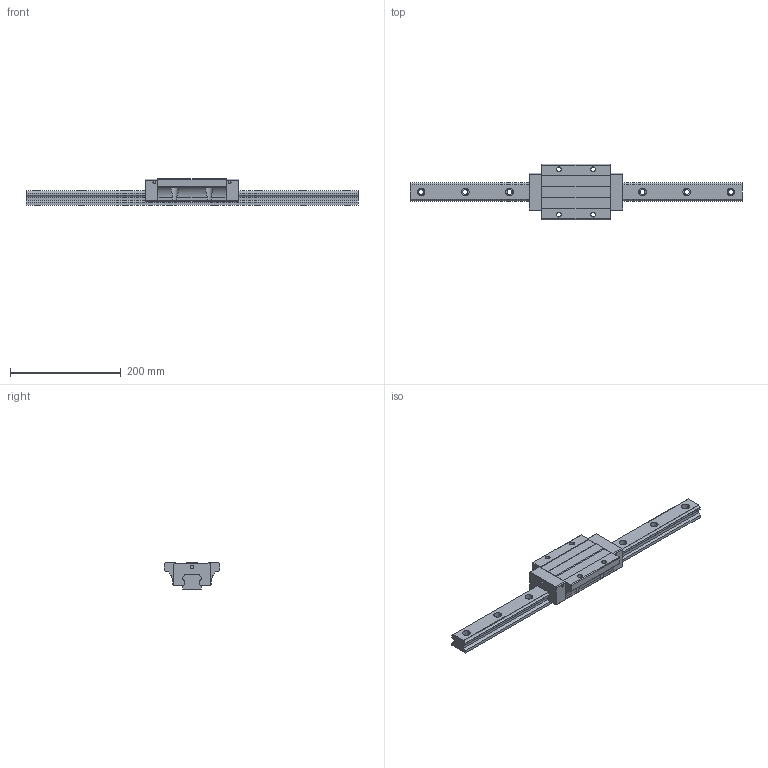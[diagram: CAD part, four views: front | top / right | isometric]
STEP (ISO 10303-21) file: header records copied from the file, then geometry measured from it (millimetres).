
FILE_DESCRIPTION (( 'STEP AP203' ), '1' );
FILE_NAME ('TRH35FE-DU.STEP', '2024-06-28T02:35:47', ( '' ), ( '' ), 'SwSTEP 2.0', 'SolidWorks 2022', '' );
FILE_SCHEMA (( 'CONFIG_CONTROL_DESIGN' ));
Length unit declared in the file: millimetre
Products named in the file (1): TRH35FE-DU
Bounding box: 600 x 100 x 48 mm (x, y, z)
Volume: 869708.9 mm3; surface area: 140890 mm2
Topology: 2 solids, 2 shells, 212 faces, 580 edges, 386 vertices
Faces by surface type: cylinder 112, plane 100
Entity records: 7449 total; most frequent: CARTESIAN_POINT 1801, DIRECTION 1174, ORIENTED_EDGE 1160, EDGE_CURVE 580, AXIS2_PLACEMENT_3D 409, VERTEX_POINT 386, VECTOR 356, LINE 356
